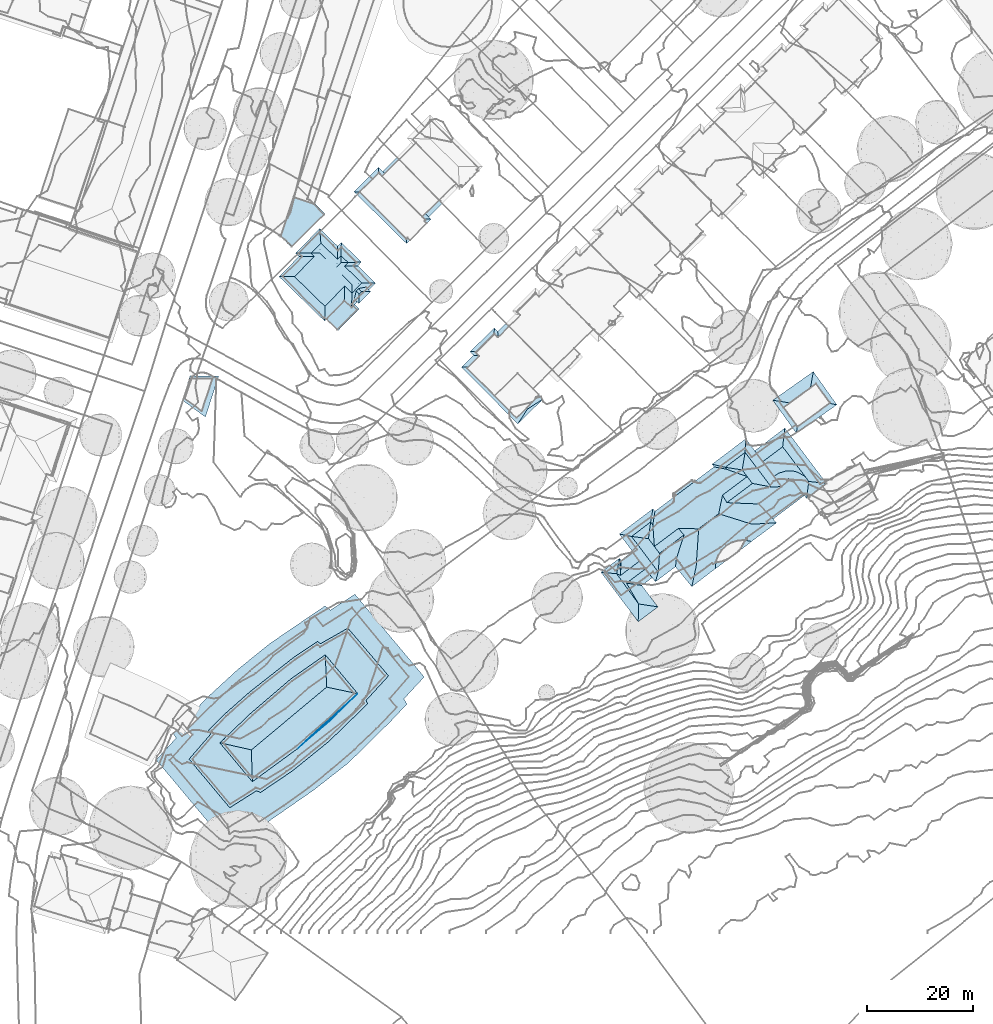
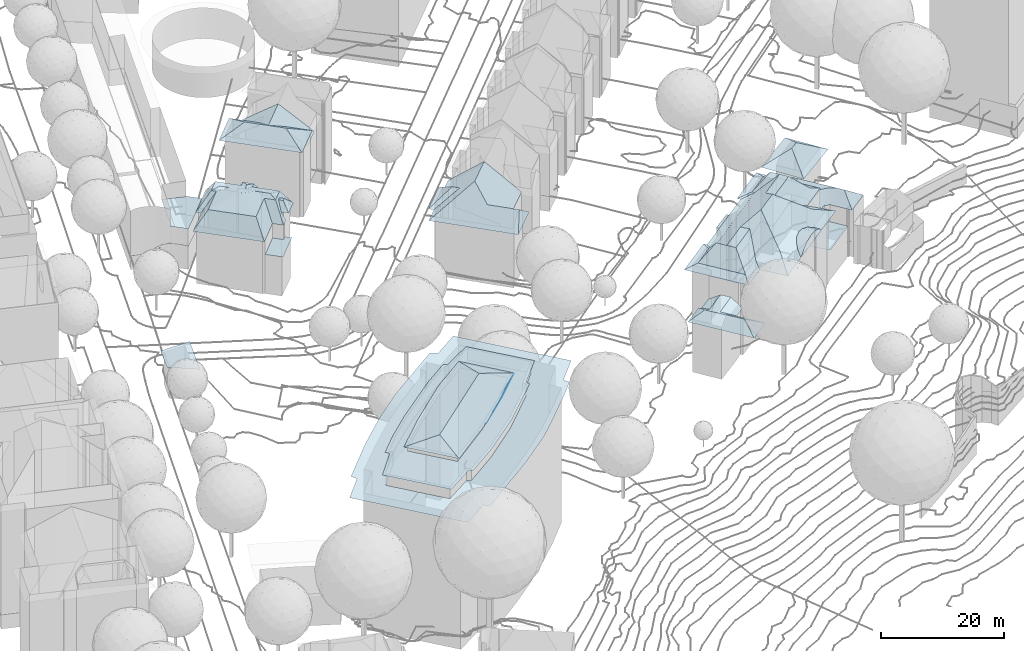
# Not in any storey, part 65 of 477: 16 roofs.
"""IFC4 building model written with IfcOpenShell, lengths in metres."""

from ifc_helpers import new_model, si_unit, frame, origin_with_axes, place, context, subcontext, project, spatial, polygons, element, save


model = new_model("IFC4")

# Units and contexts
model_context = context("Model", 3, precision=1e-05, world=origin_with_axes())
body_context = subcontext(model_context, "Body", "Model", "MODEL_VIEW")
ifc_project = project(units=[si_unit("AREAUNIT", "SQUARE_METRE"), si_unit("LENGTHUNIT", "METRE")], contexts=[model_context])

# Sites, building
site_1_placement = place(None, origin_with_axes())
site_1 = spatial("IfcSite", under=ifc_project, at=site_1_placement, Name="Topoexport Site")
site_2_placement = place(site_1_placement, origin_with_axes())
site_2 = spatial("IfcSite", under=site_1, at=site_2_placement, Name="TPX_BUILDINGS")
building_1_placement = place(site_2_placement, frame((173.5807320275, 98.186316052, 528.0961), z_axis=(0.0, 0.0, 1.0), x_axis=(1.0, 0.0, 0.0)))
building_1 = spatial("IfcBuilding", under=site_2, at=building_1_placement, Name="Building 31", CompositionType="ELEMENT")

# Roof
roof_1_placement = place(None, frame((173.5807320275, 98.186316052, 528.0961), z_axis=(0.0, 0.0, 1.0), x_axis=(1.0, 0.0, 0.0)))
element("IfcRoof", 1, at=roof_1_placement, inside=building_1, Name="Roof 0", context=body_context, shape_type="Tessellation", body=[
    polygons([(-2.0700000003, 1.384800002, 6.1144), (5.5929999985, 6.7950000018, 6.0314), (4.1860000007, 3.057599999, 7.5362), (3.2329999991, 0.5234999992, 8.5571), (1.1739999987, 0.8575000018, 7.6082), (2.5309999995, -3.9404000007, 6.4173), (2.3819999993, -4.8856999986, 5.9644), (4.6719999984, 1.5243999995, 8.5501), (10.0460000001, 0.5243999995, 5.9664), (8.693, 0.7763999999, 6.6173), (5.0500000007, 3.688500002, 7.5162)], [[[3, 2, 1]], [[3, 5, 4]], [[5, 3, 1]], [[5, 1, 6]], [[6, 4, 5]], [[7, 6, 1]], [[8, 4, 6]], [[6, 7, 9]], [[6, 10, 8]], [[10, 6, 9]], [[11, 2, 3]], [[4, 8, 11]], [[4, 11, 3]], [[10, 9, 2]], [[10, 11, 8]], [[11, 10, 2]]]),
])

# Building
building_2_placement = place(site_2_placement, frame((160.7467320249, 68.8533160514, 524.6524), z_axis=(0.0, 0.0, 1.0), x_axis=(1.0, 0.0, 0.0)))
building_2 = spatial("IfcBuilding", under=site_2, at=building_2_placement, Name="Building 63", CompositionType="ELEMENT")

# Roofs
roof_2_placement = place(None, frame((160.7467320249, 68.8533160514, 524.6524), z_axis=(0.0, 0.0, 1.0), x_axis=(1.0, 0.0, 0.0)))
element("IfcRoof", 2, at=roof_2_placement, inside=building_2, Name="Roof 0", context=body_context, shape_type="Tessellation", body=[
    polygons([(-14.0279999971, -4.3574000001, 9.889), (-13.3329999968, -1.2011999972, 11.4629), (-12.5309999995, -2.2675999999, 10.464), (-15.1559999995, -4.1854999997, 10.4999), (-12.0689999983, -2.8817999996, 9.889), (-16.935999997, -3.9140000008, 11.4629), (-14.6339999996, -7.8594000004, 11.6148), (-16.2929999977, -5.0155999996, 11.5049), (-18.7989999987, -2.1317999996, 11.4099), (-16.5599999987, -5.2108999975, 11.5198), (-18.0460000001, -2.4393999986, 11.4629), (-10.9789999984, -8.4043000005, 9.889), (-14.7229999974, -11.2225999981, 9.889), (-21.7779999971, -1.8524999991, 9.889), (-20.1969999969, -3.182599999, 10.271), (-17.2149999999, -5.6893999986, 10.9909), (-20.925999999, -1.932599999, 10.324), (-18.2529999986, 0.8027999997, 9.889), (-17.9759999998, 0.4365000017, 9.889), (-14.443, 0.2725000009, 11.4629), (-15.799999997, 2.0752000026, 9.889)], [[[3, 2, 1]], [[1, 2, 4]], [[5, 3, 1]], [[4, 2, 6]], [[8, 7, 4]], [[4, 6, 8]], [[1, 4, 7]], [[6, 9, 8]], [[8, 10, 7]], [[10, 8, 9]], [[9, 6, 11]], [[13, 12, 7]], [[15, 14, 13]], [[16, 13, 7]], [[13, 16, 15]], [[12, 1, 7]], [[14, 15, 17]], [[17, 15, 10]], [[16, 7, 10]], [[9, 17, 10]], [[10, 15, 16]], [[18, 17, 9]], [[17, 18, 14]], [[9, 11, 18]], [[18, 11, 19]], [[19, 11, 20]], [[20, 21, 19]], [[2, 20, 6]], [[11, 6, 20]]]),
])
roof_3_placement = place(None, frame((160.7467320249, 68.8533160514, 524.6524), z_axis=(0.0, 0.0, 1.0), x_axis=(1.0, 0.0, 0.0)))
element("IfcRoof", 3, at=roof_3_placement, inside=building_2, Name="Roof 1", context=body_context, shape_type="Tessellation", body=[
    polygons([(12.4710000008, 14.3535000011, 6.6703), (10.8289999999, 8.2109999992, 6.6703), (8.1400000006, 11.0918000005, 6.6703), (16.7440000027, 12.6807000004, 6.6703), (14.825000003, 15.2588, 6.6703), (13.8940000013, 15.4824000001, 6.6703), (13.4810000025, 15.2655999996, 6.6703)], [[[3, 2, 1]], [[4, 1, 2]], [[5, 1, 4]], [[7, 5, 6]], [[7, 1, 5]]]),
])
roof_4_placement = place(None, frame((160.7467320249, 68.8533160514, 524.6524), z_axis=(0.0, 0.0, 1.0), x_axis=(1.0, 0.0, 0.0)))
element("IfcRoof", 4, at=roof_4_placement, inside=building_2, Name="Roof 2", context=body_context, shape_type="Tessellation", body=[
    polygons([(5.6660000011, 4.1621000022, 15.3665), (6.7520000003, 3.9824000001, 14.7285), (6.0270000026, 3.4053000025, 15.5055), (5.4290000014, 4.2012000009, 15.5055), (5.1850000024, 2.7705000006, 16.0654), (4.1750000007, 4.1114000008, 16.0654), (4.2740000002, 2.0780999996, 16.4104), (3.0090000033, 3.7588, 16.4104), (3.3210000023, 1.3672000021, 16.5274), (1.9740000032, 3.1563000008, 16.5274), (1.1090000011, 2.3280999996, 16.4104), (2.3710000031, 0.6524000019, 16.4104), (1.4560000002, -0.0361000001, 16.0654), (0.4470000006, 1.3037, 16.0654), (0.0150000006, 0.1240000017, 15.5055), (0.6120000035, -0.6719000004, 15.5055), (-0.1429999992, -1.2089999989, 14.7285), (0.0, 0.0, 15.4335), (5.4420000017, 4.183600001, 15.3055), (5.6700000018, 4.1612000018, 15.1645), (5.6660000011, 4.1621000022, 15.1775)], [[[3, 2, 1]], [[1, 4, 3]], [[5, 3, 4]], [[6, 5, 4]], [[6, 8, 7]], [[7, 5, 6]], [[8, 10, 9]], [[9, 7, 8]], [[12, 9, 11]], [[10, 11, 9]], [[12, 14, 13]], [[14, 12, 11]], [[15, 13, 14]], [[15, 16, 13]], [[17, 16, 15]], [[17, 15, 18]], [[21, 20, 19]]]),
])
roof_5_placement = place(None, frame((160.7467320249, 68.8533160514, 524.6524), z_axis=(0.0, 0.0, 1.0), x_axis=(1.0, 0.0, 0.0)))
element("IfcRoof", 5, at=roof_5_placement, inside=building_2, Name="Roof 3", context=body_context, shape_type="Tessellation", body=[
    polygons([(-10.9210000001, -1.7997999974, 15.4845), (-11.4699999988, -3.6747999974, 14.6825), (-12.5299999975, -2.2675999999, 14.6825), (-16.7889999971, 5.0830000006, 15.2045), (-15.6519999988, 1.8780000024, 14.6826), (-18.2899999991, 5.3828000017, 14.6826), (-15.9839999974, 4.9239000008, 15.4845), (-7.6639999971, -0.8085999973, 14.6825), (-7.4729999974, 0.7959000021, 15.4845), (-4.1559999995, -2.6512999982, 15.7464), (-3.7399999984, -0.7011999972, 16.8193), (-4.568, -4.5830000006, 14.6825), (-10.6779999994, 1.7285000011, 18.6292), (-6.0299999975, 5.2285000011, 18.6292), (-10.9069999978, -1.6024999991, 15.6605), (-7.1379999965, 6.4277999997, 18.6292), (-11.6549999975, 3.0254000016, 18.6292), (9.5900000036, 7.4004000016, 15.5495), (6.7520000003, 3.9824000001, 14.7285), (6.7770000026, 5.3456999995, 15.6014), (6.8120000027, 7.2451000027, 16.8193), (11.4860000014, 7.5069000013, 14.6825), (-3.2759999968, 6.371100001, 20.793), (0.5109999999, 9.2237000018, 20.793), (2.0710000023, 11.3280999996, 18.6292), (1.2420000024, 12.7382999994, 18.6292), (6.2540000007, 11.1328000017, 15.4845), (6.8960000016, 14.9609999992, 18.6292), (10.4560000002, 14.2979000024, 15.4845), (5.9170000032, 16.2588, 18.6292), (5.5240000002, 20.8487000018, 15.4845), (1.7520000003, 18.0088, 15.4845), (5.5620000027, 21.6132999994, 15.2455), (5.6510000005, 23.4101999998, 14.6826), (0.9550000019, 18.1983000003, 15.2275), (-0.737999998, 18.6006000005, 14.6826), (7.762000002, 20.6064999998, 14.6826), (12.4710000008, 14.3535000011, 14.6825), (10.5880000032, 8.4688000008, 14.6825), (8.1400000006, 11.0918000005, 14.6825), (2.0270000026, 17.6358000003, 15.4845), (-11.9579999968, 7.1035000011, 15.4845), (0.9360000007, 17.8476999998, 15.1185), (-11.7219999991, 8.6006000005, 15.0175), (-7.5029999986, 12.7217000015, 14.6826), (-11.5529999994, 9.6739000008, 14.6826), (-7.9919999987, 12.3535000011, 14.6826), (-4.2079999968, 15.2050999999, 14.6826), (-3.9909999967, 15.3682000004, 14.6826), (-0.3609999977, 18.1006000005, 14.6826), (-7.8029999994, 13.1220999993, 14.6826), (-4.4699999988, 15.5557000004, 14.6826), (-12.2149999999, 8.5254000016, 15.2055), (-11.9279999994, 10.1739000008, 14.6826), (-12.367999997, 7.6484999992, 15.4845), (2.1630000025, 0.5274000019, 14.7285), (-0.1429999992, -1.2089999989, 14.7285), (4.3800000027, 2.1933999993, 14.7285), (-12.7779999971, 4.5166000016, 18.6292), (4.9600000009, 17.5313000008, 18.6292), (-3.2459999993, 15.9297000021, 14.6326), (-0.3609999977, 18.1006000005, 14.4826)], [[[3, 2, 1]], [[1, 4, 3]], [[4, 5, 3]], [[6, 5, 4]], [[4, 1, 7]], [[1, 2, 8]], [[8, 9, 1]], [[9, 8, 10]], [[9, 10, 11]], [[10, 8, 12]], [[9, 14, 13]], [[15, 1, 9]], [[13, 15, 9]], [[17, 13, 16]], [[14, 16, 13]], [[20, 19, 18]], [[18, 21, 20]], [[22, 18, 19]], [[23, 11, 21]], [[21, 24, 23]], [[26, 24, 25]], [[25, 21, 27]], [[21, 25, 24]], [[29, 28, 27]], [[25, 27, 28]], [[26, 25, 28]], [[28, 30, 26]], [[33, 32, 31]], [[35, 33, 34]], [[35, 32, 33]], [[36, 35, 34]], [[37, 34, 33]], [[37, 33, 31]], [[37, 29, 38]], [[29, 37, 31]], [[40, 18, 39]], [[21, 40, 27]], [[39, 18, 22]], [[18, 40, 21]], [[27, 40, 29]], [[38, 29, 40]], [[41, 26, 30]], [[24, 26, 23]], [[26, 41, 42]], [[16, 42, 17]], [[16, 23, 26]], [[16, 26, 42]], [[9, 11, 14]], [[14, 23, 16]], [[23, 14, 11]], [[45, 44, 43]], [[44, 47, 46]], [[47, 44, 45]], [[44, 42, 43]], [[43, 48, 45]], [[49, 48, 43]], [[50, 49, 43]], [[43, 42, 41]], [[52, 51, 45]], [[52, 45, 48]], [[46, 53, 44]], [[53, 46, 54]], [[55, 42, 44]], [[55, 44, 53]], [[53, 4, 55]], [[6, 53, 54]], [[55, 4, 7]], [[4, 53, 6]], [[57, 56, 11]], [[10, 12, 57]], [[10, 57, 11]], [[20, 58, 19]], [[58, 20, 21]], [[21, 56, 58]], [[56, 21, 11]], [[43, 41, 35]], [[35, 41, 32]], [[36, 50, 43]], [[36, 43, 35]], [[7, 17, 59]], [[17, 7, 15]], [[13, 17, 15]], [[15, 7, 1]], [[30, 32, 41]], [[32, 30, 60]], [[31, 32, 60]], [[59, 17, 55]], [[42, 55, 17]], [[55, 7, 59]], [[28, 29, 30]], [[30, 31, 60]], [[31, 30, 29]], [[49, 62, 61]]]),
])
roof_6_placement = place(None, frame((160.7467320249, 68.8533160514, 524.6524), z_axis=(0.0, 0.0, 1.0), x_axis=(1.0, 0.0, 0.0)))
element("IfcRoof", 6, at=roof_6_placement, inside=building_2, Name="Roof 4", context=body_context, shape_type="Tessellation", body=[
    polygons([(19.2700000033, 15.4932000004, 10.8329), (20.7070000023, 15.2646999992, 10.016), (20.9470000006, 14.9453000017, 10.016), (14.4370000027, 22.1143000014, 10.7349), (16.8770000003, 16.2763999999, 11.9998), (13.0490000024, 25.4356000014, 10.016), (20.2520000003, 15.0263999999, 10.4229), (17.5610000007, 15.3408000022, 11.9998), (19.5520000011, 15.1084000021, 10.8339), (12.9020000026, 24.2178000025, 10.6989), (12.6210000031, 21.8984999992, 11.9998), (7.7630000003, 20.6074000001, 10.539), (7.3550000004, 21.1484999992, 10.016), (8.9000000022, 19.0967000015, 11.9998), (11.8859999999, 16.9004000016, 11.9998), (10.9910000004, 16.3252000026, 11.9998), (13.25, 17.3203000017, 11.9998), (15.3620000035, 17.1308999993, 11.9998), (14.501000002, 17.3271999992, 11.9998), (14.825000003, 15.2588, 10.016), (17.2780000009, 12.9706999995, 10.5469), (17.6490000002, 12.4600000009, 10.016), (17.1750000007, 12.1035000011, 10.016), (13.4810000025, 15.2655999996, 10.016), (13.8940000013, 15.4824000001, 10.016), (12.4710000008, 14.3535000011, 10.016), (16.5920000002, 12.8867000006, 10.016)], [[[3, 2, 1]], [[4, 1, 2]], [[5, 1, 4]], [[4, 2, 6]], [[7, 3, 1]], [[1, 5, 8]], [[8, 9, 1]], [[1, 9, 7]], [[6, 10, 4]], [[11, 5, 4]], [[11, 4, 10]], [[10, 12, 11]], [[13, 10, 6]], [[13, 12, 10]], [[12, 14, 11]], [[16, 15, 14]], [[17, 11, 14]], [[14, 15, 17]], [[18, 5, 11]], [[17, 19, 11]], [[18, 11, 19]], [[20, 5, 18]], [[23, 22, 21]], [[21, 22, 9]], [[3, 7, 22]], [[8, 21, 9]], [[9, 22, 7]], [[15, 24, 17]], [[17, 24, 25]], [[15, 26, 24]], [[26, 15, 16]], [[23, 21, 27]], [[27, 21, 5]], [[27, 5, 20]], [[5, 21, 8]], [[25, 20, 19]], [[18, 19, 20]], [[17, 25, 19]]]),
])

# Building
building_3_placement = place(site_2_placement, frame((60.2177320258, 99.807416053, 527.0553), z_axis=(0.0, 0.0, 1.0), x_axis=(1.0, 0.0, 0.0)))
building_3 = spatial("IfcBuilding", under=site_2, at=building_3_placement, Name="Building 132", CompositionType="ELEMENT")

# Roof
roof_7_placement = place(None, frame((60.2177320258, 99.807416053, 527.0553), z_axis=(0.0, 0.0, 1.0), x_axis=(1.0, 0.0, 0.0)))
element("IfcRoof", 7, at=roof_7_placement, inside=building_3, Name="Roof 0", context=body_context, shape_type="Tessellation", body=[
    polygons([(3.8890000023, -3.432599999, 6.4343), (-0.4890000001, -0.2246000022, 6.4343), (0.9519999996, 4.3925999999, 6.4343), (6.3980000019, 4.3213, 6.4343)], [[[3, 2, 1]], [[1, 4, 3]]]),
])

# Building
building_4_placement = place(site_2_placement, frame((54.4957320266, 39.4383160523, 525.2974), z_axis=(0.0, 0.0, 1.0), x_axis=(1.0, 0.0, 0.0)))
building_4 = spatial("IfcBuilding", under=site_2, at=building_4_placement, Name="Building 133", CompositionType="ELEMENT")

# Roofs
roof_8_placement = place(None, frame((54.4957320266, 39.4383160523, 525.2974), z_axis=(0.0, 0.0, 1.0), x_axis=(1.0, 0.0, 0.0)))
element("IfcRoof", 8, at=roof_8_placement, inside=building_4, Name="Roof 1", context=body_context, shape_type="Tessellation", body=[
    polygons([(18.0799999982, 0.5302999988, 28.2982), (22.5870000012, 4.121100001, 28.2982), (18.5320000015, 0.5078000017, 28.2982), (23.8339999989, 5.0507999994, 28.2982), (13.6799999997, -4.1279000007, 28.2982), (13.5709999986, -3.9862999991, 28.2982), (25.7509999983, -9.6611000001, 27.6263), (19.7320000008, -10.558600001, 28.1922), (23.9930000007, -7.4433999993, 28.1842), (26.063000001, -10.0546999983, 27.5273), (25.0489999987, -10.1358000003, 27.6333), (39.9930000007, 3.2655999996, 27.5273), (40.3410000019, 2.6865000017, 27.5273), (39.4809999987, 2.5478000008, 27.6353), (34.8909999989, 1.807599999, 28.2132), (34.9970000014, 1.9111000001, 28.1932), (39.7270000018, 3.4305999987, 27.6043), (37.7690000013, 4.6064000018, 28.1612), (37.6640000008, 4.7324000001, 28.2022), (19.8159999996, -13.4941999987, 27.6643), (20.0520000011, -14.1094000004, 27.5273), (19.2419999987, -13.8213, 27.5273), (18.8170000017, -11.2276000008, 28.1552), (18.9180000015, -11.1532999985, 28.1842), (14.2129999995, -17.0078000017, 27.5273), (18.3590000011, -11.1493999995, 28.2362), (18.5729999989, -11.4052999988, 28.1502), (17.7419999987, -10.4111000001, 28.2362), (7.3269999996, -7.9990000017, 27.5783), (6.5179999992, -7.8115000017, 27.5273), (14.245000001, 0.9219000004, 27.6433), (17.9609999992, 4.871100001, 27.5273), (17.9789999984, 4.2206999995, 27.6433), (13.568, 0.9902000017, 27.5273), (13.568, 0.2831999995, 27.6373), (10.6209999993, -3.0625, 27.5273), (11.6710000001, -1.6182000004, 27.5273), (10.1579999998, -2.4268000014, 27.5273), (7.7609999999, -7.1376999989, 27.6633), (13.0229999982, -4.7558999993, 28.2102), (34.0769999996, 1.0166000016, 28.2122), (33.1700000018, -3.5742000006, 27.6353), (33.0, -4.4375, 27.5273), (32.7760000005, -0.2490000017, 28.1942), (29.9050000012, -2.7129000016, 28.2032), (30.6229999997, -2.0967000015, 28.2012), (26.5179999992, -9.0430000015, 27.6303), (26.6779999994, -5.4814999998, 28.1662), (29.0240000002, -3.4677999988, 28.1972), (26.3979999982, 10.8691000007, 27.6343), (25.7490000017, 10.3583999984, 27.6393), (26.2850000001, 11.4160000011, 27.5273), (27.0590000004, 7.6601000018, 28.2632), (26.0760000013, 6.9717000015, 28.2562), (27.1959999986, 11.4266999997, 27.6483), (32.0670000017, 11.4774999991, 28.2982), (29.0769999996, 9.0731999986, 28.2982), (18.631000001, 4.7626999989, 27.6393), (35.6939999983, 15.9023000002, 27.6783), (40.1950000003, 6.1854999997, 27.9812), (36.5760000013, 16.9785000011, 27.5273), (37.0020000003, 15.7089999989, 27.5803), (31.3720000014, 14.0234000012, 27.5273), (31.5080000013, 13.5254000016, 27.6783), (30.4770000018, 13.5654000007, 27.5273), (30.8520000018, 14.4862999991, 27.5273), (32.9670000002, 10.3603000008, 28.2982), (37.4479999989, 4.9912, 28.2852), (44.2699999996, 7.9560000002, 27.5273), (43.1499999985, 7.4697000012, 27.6523), (32.2089999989, 11.2685000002, 28.2982)], [[[3, 2, 1]], [[4, 2, 3]], [[6, 5, 3]], [[6, 3, 1]], [[9, 8, 7]], [[11, 10, 7]], [[11, 7, 8]], [[14, 13, 12]], [[12, 15, 14]], [[15, 12, 16]], [[18, 16, 17]], [[19, 18, 17]], [[12, 17, 16]], [[22, 21, 20]], [[20, 23, 22]], [[23, 20, 24]], [[20, 8, 24]], [[11, 20, 21]], [[11, 8, 20]], [[10, 11, 21]], [[27, 26, 25]], [[23, 27, 25]], [[25, 22, 23]], [[29, 25, 28]], [[25, 29, 30]], [[25, 26, 28]], [[33, 32, 31]], [[33, 31, 1]], [[31, 32, 34]], [[35, 6, 31]], [[31, 34, 35]], [[1, 31, 6]], [[37, 36, 6]], [[35, 34, 37]], [[37, 6, 35]], [[37, 34, 38]], [[38, 36, 37]], [[30, 29, 39]], [[39, 29, 28]], [[28, 40, 39]], [[5, 6, 40]], [[40, 6, 39]], [[30, 39, 36]], [[6, 36, 39]], [[42, 14, 41]], [[13, 42, 43]], [[14, 15, 41]], [[13, 14, 42]], [[41, 44, 42]], [[46, 45, 43]], [[43, 42, 46]], [[46, 42, 44]], [[48, 9, 47]], [[47, 7, 10]], [[7, 47, 9]], [[48, 47, 49]], [[47, 10, 43]], [[49, 47, 43]], [[49, 43, 45]], [[52, 51, 50]], [[54, 53, 50]], [[50, 51, 4]], [[4, 54, 50]], [[51, 2, 4]], [[50, 53, 55]], [[52, 50, 55]], [[57, 56, 55]], [[57, 55, 53]], [[51, 52, 32]], [[51, 58, 2]], [[58, 51, 32]], [[33, 1, 2]], [[58, 32, 33]], [[2, 58, 33]], [[56, 60, 59]], [[62, 61, 59]], [[62, 59, 60]], [[59, 61, 63]], [[64, 56, 59]], [[63, 64, 59]], [[52, 55, 65]], [[65, 55, 56]], [[63, 65, 64]], [[64, 65, 56]], [[63, 66, 65]], [[52, 65, 66]], [[68, 60, 67]], [[56, 67, 60]], [[19, 17, 60]], [[19, 60, 68]], [[70, 69, 62]], [[62, 60, 70]], [[61, 62, 69]], [[17, 12, 70]], [[70, 60, 17]], [[69, 70, 12]], [[56, 57, 71]], [[71, 67, 56]]]),
])
roof_9_placement = place(None, frame((54.4957320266, 39.4383160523, 525.2974), z_axis=(0.0, 0.0, 1.0), x_axis=(1.0, 0.0, 0.0)))
element("IfcRoof", 9, at=roof_9_placement, inside=building_4, Name="Roof 2", context=body_context, shape_type="Tessellation", body=[
    polygons([(7.1739999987, -7.816399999, 25.2785), (0.2800000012, -7.9512000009, 25.2785), (4.0379999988, -3.8398999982, 25.2785), (3.4580000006, -2.8564999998, 25.2785), (10.0799999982, 3.9803999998, 25.2785), (10.8139999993, -2.4776000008, 25.2785), (11.2589999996, -3.0898999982, 25.2785), (18.2829999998, 4.4891999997, 25.2785), (13.9100000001, 0.625, 25.2785), (14.3150000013, -16.3506000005, 25.2785), (15.6719999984, 9.1171999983, 25.2785), (21.800999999, 14.0760999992, 25.2785), (32.2219999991, 21.1787, 25.2785), (30.8099999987, 13.8553999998, 25.2785), (33.2950000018, 20.4169999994, 25.2785), (36.4640000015, 16.3398000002, 25.2785), (37.9010000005, 23.4101000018, 25.2785), (31.307, 13.4111000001, 25.2785), (43.6039999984, 7.9677999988, 25.2785), (26.5789999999, 11.0117000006, 25.2785), (19.9820000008, -13.5537, 25.2785), (19.1799999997, -13.2685999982, 25.2785), (18.1059999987, -20.6689999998, 25.2785), (30.1380000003, -13.6581999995, 25.2785), (25.7659999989, -9.6513999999, 25.2785), (19.0, -21.3867000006, 25.2785), (32.6700000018, -4.0606000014, 25.2785), (13.4100000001, -23.6611999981, 25.2785), (39.7080000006, 2.7685000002, 25.2785), (47.1849999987, 3.5907999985, 25.2785), (39.3729999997, 3.3271000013, 25.2785), (51.0309999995, 7.746100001, 25.2785), (39.5309999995, -5.7949000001, 25.2785), (44.8559999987, -0.4785000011, 25.2785), (47.7650000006, 2.6053999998, 25.2785), (36.3559999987, -8.7901000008, 25.2785)], [[[3, 2, 1]], [[5, 4, 3]], [[3, 6, 5]], [[1, 7, 6]], [[9, 8, 5]], [[6, 9, 5]], [[1, 6, 3]], [[2, 10, 1]], [[5, 8, 11]], [[14, 13, 12]], [[14, 15, 13]], [[11, 8, 12]], [[16, 15, 14]], [[16, 17, 15]], [[16, 14, 18]], [[17, 16, 19]], [[14, 12, 20]], [[8, 20, 12]], [[22, 10, 21]], [[10, 23, 21]], [[24, 21, 23]], [[24, 25, 21]], [[24, 23, 26]], [[25, 24, 27]], [[23, 10, 28]], [[10, 2, 28]], [[30, 19, 29]], [[31, 29, 19]], [[32, 19, 30]], [[19, 32, 17]], [[29, 27, 33]], [[34, 29, 33]], [[30, 34, 35]], [[30, 29, 34]], [[33, 27, 36]], [[27, 24, 36]]]),
])
roof_10_placement = place(None, frame((54.4957320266, 39.4383160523, 525.2974), z_axis=(0.0, 0.0, 1.0), x_axis=(1.0, 0.0, 0.0)))
element("IfcRoof", 10, at=roof_10_placement, inside=building_4, Name="Roof 3", context=body_context, shape_type="Tessellation", body=[
    polygons([(33.1130000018, -0.6171999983, 29.1991), (27.0450000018, -5.8291000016, 29.1991), (38.4499999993, 4.5713, 29.1731)], [[[3, 2, 1]]]),
])
roof_11_placement = place(None, frame((54.4957320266, 39.4383160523, 525.2974), z_axis=(0.0, 0.0, 1.0), x_axis=(1.0, 0.0, 0.0)))
element("IfcRoof", 11, at=roof_11_placement, inside=building_4, Name="Roof 4", context=body_context, shape_type="Tessellation", body=[
    polygons([(33.3900000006, 0.3486000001, 29.1731), (32.5579999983, 5.8213, 30.382), (37.6579999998, 4.7391999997, 29.3361), (38.4499999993, 4.5713, 29.1731), (24.4739999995, -7.0927999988, 29.1731), (18.4660000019, -11.2773999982, 29.3351), (18.313000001, -6.067400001, 30.382), (18.4899999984, -12.0868999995, 29.1731), (12.3399999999, -4.7168000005, 29.1731), (13.1420000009, -4.8975000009, 29.3351), (27.0450000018, -5.8291000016, 29.1991), (32.3330000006, 11.120099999, 29.3351), (32.2980000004, 11.941399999, 29.1731), (18.1950000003, 0.8768999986, 29.2241), (25.7670000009, 7.3652000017, 29.2241)], [[[3, 2, 1]], [[1, 4, 3]], [[2, 5, 1]], [[7, 6, 5]], [[8, 5, 6]], [[7, 5, 2]], [[10, 9, 8]], [[6, 7, 10]], [[8, 6, 10]], [[5, 8, 11]], [[11, 4, 1]], [[11, 1, 5]], [[9, 10, 12]], [[10, 7, 2]], [[12, 13, 9]], [[12, 10, 2]], [[3, 4, 12]], [[12, 2, 3]], [[13, 12, 4]], [[9, 15, 14]], [[15, 9, 13]]]),
])

# Building
building_5_placement = place(site_2_placement, frame((78.7667320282, 123.0301160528, 529.3211), z_axis=(0.0, 0.0, 1.0), x_axis=(1.0, 0.0, 0.0)))
building_5 = spatial("IfcBuilding", under=site_2, at=building_5_placement, Name="Building 135", CompositionType="ELEMENT")

# Roofs
roof_12_placement = place(None, frame((78.7667320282, 123.0301160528, 529.3211), z_axis=(0.0, 0.0, 1.0), x_axis=(1.0, 0.0, 0.0)))
element("IfcRoof", 12, at=roof_12_placement, inside=building_5, Name="Roof 0", context=body_context, shape_type="Tessellation", body=[
    polygons([(15.4229999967, -2.9004000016, 13.0077), (16.0089999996, -2.3194000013, 12.0338), (16.2759999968, -2.5800999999, 12.0338), (16.606999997, -2.9013999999, 12.0338), (14.300999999, -2.3418000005, 13.4586), (15.7159999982, -2.0342000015, 12.0338), (14.873999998, -2.8993999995, 13.4586), (15.1199999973, -3.1992000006, 13.0157), (14.4489999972, -3.3339999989, 13.4586), (14.4089999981, -5.1563000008, 12.0338), (13.8769999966, -2.7763999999, 13.4586), (13.7709999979, -4.5351999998, 12.0338), (14.0789999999, -4.8350000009, 12.0338), (13.5189999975, -4.2890999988, 12.0338), (11.1519999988, 0.3037, 14.2736), (8.5369999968, 0.566399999, 14.6165), (10.1559999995, 1.7001999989, 14.2086), (11.6699999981, 1.9140000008, 13.9546), (11.7139999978, -1.8456999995, 13.9546), (8.1609999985, 3.2197000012, 14.2736), (10.3359999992, 3.2137999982, 13.9546), (14.9409999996, -1.2783000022, 13.9546), (13.0369999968, -1.5351999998, 14.2736), (13.0849999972, -3.1816999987, 13.9546), (7.1959999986, 6.2734000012, 13.9546), (6.9419999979, 4.4061999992, 14.2736), (5.3409999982, 4.3691000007, 13.9546), (5.9569999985, 3.7685000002, 13.9546), (7.9609999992, -5.6933999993, 13.9546), (2.2060000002, -0.0800999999, 13.9546), (11.0, 2.5654000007, 14.2086), (11.0089999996, 3.9013999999, 13.9546), (12.3409999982, 2.6015000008, 13.9546), (17.5409999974, -1.2831999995, 10.6389), (16.7109999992, -1.625, 11.2738), (14.4459999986, 0.8535000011, 11.7918), (14.182, 1.990199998, 10.6389), (15.7960000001, -2.1123000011, 11.8338), (16.0089999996, -2.3194000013, 11.3048), (16.2759999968, -2.5800999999, 10.6389), (13.4759999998, -4.3544999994, 12.0068), (13.1729999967, -5.3828000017, 11.1149), (12.993999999, -5.9492000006, 10.6389), (11.6569999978, -4.6464999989, 10.6389), (13.7709999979, -4.5351999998, 11.4068), (13.5989999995, -4.3672000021, 11.8338), (14.0789999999, -4.8350000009, 10.6389), (13.5999999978, -5.3262000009, 10.6389), (13.3609999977, -5.572300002, 10.6389), (6.5949999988, 7.9648000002, 11.3959), (6.9659999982, 9.0282999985, 10.6389), (7.0219999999, 8.3612999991, 11.4419), (2.4169999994, 4.3632999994, 10.6389), (3.0069999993, 4.3641999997, 11.3079), (3.0389999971, 3.7567999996, 10.6389), (3.6059999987, 3.7588, 11.2829), (8.2419999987, -8.1493999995, 10.6389), (0.0819999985, -0.0830000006, 11.5358), (-0.7050000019, -0.0839999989, 10.6389), (6.8609999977, -6.9365000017, 11.2509), (7.9139999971, -8.4862999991, 10.6389), (7.930999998, -7.8350000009, 11.4118), (13.3699999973, 1.9628999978, 11.7108), (13.9399999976, 2.6543000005, 11.8498), (14.8599999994, 2.6854999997, 10.6389), (11.0599999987, 6.3935000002, 10.6389), (9.5, 5.8563999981, 11.5558), (10.3809999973, 5.6963, 10.6389), (10.6209999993, 5.0106999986, 11.9048)], [[[3, 2, 1]], [[4, 3, 1]], [[6, 5, 1]], [[7, 1, 5]], [[6, 1, 2]], [[7, 9, 8]], [[8, 4, 1]], [[8, 1, 7]], [[9, 10, 8]], [[8, 10, 4]], [[12, 9, 11]], [[12, 13, 9]], [[10, 9, 13]], [[11, 14, 12]], [[9, 7, 5]], [[5, 11, 9]], [[17, 16, 15]], [[15, 18, 17]], [[16, 19, 15]], [[21, 20, 17]], [[16, 17, 20]], [[23, 22, 18]], [[18, 15, 23]], [[24, 22, 23]], [[24, 23, 19]], [[15, 19, 23]], [[20, 21, 25]], [[25, 26, 20]], [[25, 27, 26]], [[27, 28, 26]], [[20, 26, 28]], [[16, 29, 19]], [[30, 29, 16]], [[28, 16, 20]], [[30, 16, 28]], [[33, 32, 31]], [[32, 21, 17]], [[17, 31, 32]], [[31, 17, 18]], [[18, 33, 31]], [[5, 22, 24]], [[24, 11, 5]], [[6, 22, 5]], [[35, 34, 22]], [[22, 6, 35]], [[22, 34, 36]], [[37, 36, 34]], [[6, 38, 35]], [[40, 35, 39]], [[35, 40, 34]], [[39, 35, 38]], [[24, 14, 11]], [[14, 24, 41]], [[24, 42, 41]], [[42, 24, 43]], [[24, 19, 44]], [[44, 43, 24]], [[46, 41, 45]], [[41, 46, 14]], [[48, 47, 45]], [[48, 45, 41]], [[42, 43, 49]], [[42, 49, 48]], [[42, 48, 41]], [[52, 51, 50]], [[50, 27, 25]], [[50, 25, 52]], [[50, 51, 53]], [[50, 54, 27]], [[54, 50, 53]], [[53, 55, 54]], [[54, 55, 56]], [[56, 28, 27]], [[56, 27, 54]], [[44, 29, 57]], [[19, 29, 44]], [[55, 59, 58]], [[55, 58, 30]], [[56, 55, 30]], [[28, 56, 30]], [[58, 59, 60]], [[58, 60, 30]], [[60, 59, 61]], [[57, 29, 62]], [[62, 61, 57]], [[30, 62, 29]], [[61, 62, 60]], [[30, 60, 62]], [[64, 33, 63]], [[63, 65, 64]], [[64, 66, 33]], [[66, 64, 65]], [[33, 66, 32]], [[67, 25, 21]], [[21, 68, 67]], [[67, 68, 51]], [[52, 25, 67]], [[51, 52, 67]], [[69, 21, 32]], [[21, 69, 68]], [[69, 32, 66]], [[66, 68, 69]], [[18, 22, 63]], [[37, 63, 36]], [[22, 36, 63]], [[65, 63, 37]], [[18, 63, 33]]]),
])
roof_13_placement = place(None, frame((78.7667320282, 123.0301160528, 529.3211), z_axis=(0.0, 0.0, 1.0), x_axis=(1.0, 0.0, 0.0)))
element("IfcRoof", 13, at=roof_13_placement, inside=building_5, Name="Roof 1", context=body_context, shape_type="Tessellation", body=[
    polygons([(10.4499999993, -10.259800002, 7.7942), (8.2649999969, -8.126000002, 7.7942), (12.993999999, -5.9492000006, 7.7942), (11.6569999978, -4.6464999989, 7.7942), (14.4509999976, -6.1563000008, 7.7942), (13.5999999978, -5.3262000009, 7.7942)], [[[3, 2, 1]], [[3, 4, 2]], [[5, 3, 1]], [[6, 3, 5]]]),
])

# Building
building_6_placement = place(site_2_placement, frame((93.366732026, 139.0154160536, 529.92), z_axis=(0.0, 0.0, 1.0), x_axis=(1.0, 0.0, 0.0)))
building_6 = spatial("IfcBuilding", under=site_2, at=building_6_placement, Name="Building 141", CompositionType="ELEMENT")

# Roof
roof_14_placement = place(None, frame((93.366732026, 139.0154160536, 529.92), z_axis=(0.0, 0.0, 1.0), x_axis=(1.0, 0.0, 0.0)))
element("IfcRoof", 14, at=roof_14_placement, inside=building_6, Name="Roof 0", context=body_context, shape_type="Tessellation", body=[
    polygons([(3.6220000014, -0.1894000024, 15.5615), (8.6000000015, -5.0898000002, 15.5615), (0.0580000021, -0.0576000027, 13.9677), (-1.118999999, -0.0146000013, 13.4417), (8.800999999, -8.8905999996, 13.8606), (8.8509999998, -9.8271000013, 13.4417), (9.506000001, -9.1621000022, 13.4417), (12.6420000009, -5.9756000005, 13.4417), (12.2250000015, -5.1416000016, 13.9756), (13.4450000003, -5.1601000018, 13.4417), (10.3020000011, -2.0664000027, 13.4417), (6.8920000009, -2.2919999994, 15.0575), (3.5109999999, 3.4775999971, 13.9557), (3.4750000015, 4.6513999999, 13.4417), (7.0639999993, 1.1191999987, 13.4417), (6.8640000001, 1.316399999, 13.2417), (3.8489999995, 3.3486999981, 10.698), (7.0140000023, 6.5645000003, 10.698), (3.8320000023, 3.3310999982, 10.698), (11.307, 2.1943999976, 15.0575), (6.813000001, 0.3213, 13.7137), (12.4580000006, -5.3779000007, 10.6979), (15.0190000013, -1.5849000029, 11.2879), (15.6000000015, -2.1766999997, 10.6979), (9.443, -2.3340000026, 13.7437), (10.5020000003, -2.263600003, 13.2417), (4.6280000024, 4.1396999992, 10.548), (3.8320000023, 3.3310999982, 10.498), (3.8489999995, 3.3486999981, 10.498)], [[[3, 2, 1]], [[5, 3, 4]], [[5, 2, 3]], [[6, 5, 4]], [[6, 7, 5]], [[5, 7, 8]], [[8, 10, 9]], [[2, 5, 9]], [[9, 5, 8]], [[10, 11, 9]], [[12, 2, 9]], [[9, 11, 12]], [[15, 14, 13]], [[15, 1, 12]], [[1, 15, 13]], [[12, 1, 2]], [[13, 14, 4]], [[3, 1, 13]], [[4, 3, 13]], [[18, 17, 16]], [[17, 19, 16]], [[12, 20, 15]], [[16, 15, 20]], [[16, 20, 18]], [[21, 16, 19]], [[24, 23, 22]], [[22, 26, 25]], [[20, 26, 22]], [[22, 23, 20]], [[20, 12, 11]], [[20, 11, 26]], [[29, 28, 27]]]),
])

# Building
building_7_placement = place(site_2_placement, frame((72.548732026, 133.6649160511, 527.8002), z_axis=(0.0, 0.0, 1.0), x_axis=(1.0, 0.0, 0.0)))
building_7 = spatial("IfcBuilding", under=site_2, at=building_7_placement, Name="Building 143", CompositionType="ELEMENT")

# Roof
roof_15_placement = place(None, frame((72.548732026, 133.6649160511, 527.8002), z_axis=(0.0, 0.0, 1.0), x_axis=(1.0, 0.0, 0.0)))
element("IfcRoof", 15, at=roof_15_placement, inside=building_7, Name="Roof 0", context=body_context, shape_type="Tessellation", body=[
    polygons([(12.1779999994, 2.9872000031, 8.4512), (5.8310000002, -3.1142999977, 8.4512), (5.8420000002, -3.0156999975, 8.4512), (8.2789999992, 4.2890000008, 8.4512), (5.6130000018, -2.8974999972, 8.4512), (7.8969999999, -5.1757999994, 8.4512), (12.2280000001, 3.1357000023, 8.4512), (14.2120000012, 1.1590999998, 8.4512)], [[[3, 2, 1]], [[3, 1, 4]], [[3, 5, 2]], [[2, 6, 1]], [[1, 8, 7]], [[6, 8, 1]]]),
])

# Building
building_8_placement = place(site_2_placement, frame((113.678732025, 105.6463160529, 529.229), z_axis=(0.0, 0.0, 1.0), x_axis=(1.0, 0.0, 0.0)))
building_8 = spatial("IfcBuilding", under=site_2, at=building_8_placement, Name="Building 160", CompositionType="ELEMENT")

# Roof
roof_16_placement = place(None, frame((113.678732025, 105.6463160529, 529.229), z_axis=(0.0, 0.0, 1.0), x_axis=(1.0, 0.0, 0.0)))
element("IfcRoof", 16, at=roof_16_placement, inside=building_8, Name="Roof 0", context=body_context, shape_type="Tessellation", body=[
    polygons([(0.5340000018, 3.0947000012, 11.1639), (5.1060000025, 7.6074000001, 11.1639), (5.0930000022, 6.4853000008, 11.8709), (5.0530000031, 3.1933999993, 13.9447), (1.7100000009, 3.120099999, 11.8879), (1.1850000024, 2.4354999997, 11.1639), (5.9510000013, 2.2831999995, 13.9447), (5.756000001, 6.9481999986, 11.1639), (7.5230000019, 0.0975999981, 16.0844), (12.4560000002, -3.9199000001, 11.1639), (7.5830000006, -3.9492000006, 13.8107), (11.6530000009, 4.1748000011, 16.0844), (16.1090000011, -0.313500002, 11.1639), (1.6720000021, 2.9160000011, 11.1639), (2.0050000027, 2.5800999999, 11.5439), (1.3530000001, 2.6015999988, 11.1639), (2.2440000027, 2.2304999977, 11.6799), (1.8110000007, 1.8016999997, 11.1639), (1.3600000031, 2.2588, 11.1639), (5.9310000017, 6.7725000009, 11.1639), (6.370000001, 6.3271000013, 11.1639), (5.9660000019, 5.9266999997, 11.6679), (5.5960000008, 6.7899999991, 11.1639), (5.6280000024, 6.0194999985, 11.6239), (5.2250000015, 6.4248000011, 11.1639), (0.1780000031, 0.177699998, 11.8879), (-1.0879999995, 0.191399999, 11.1639), (7.3440000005, 8.5165999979, 11.1639), (7.819000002, -7.876000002, 11.5079), (8.1300000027, -8.1904000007, 11.1639), (7.8289999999, -8.4882999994, 11.1639), (11.200000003, -7.6123000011, 13.8107), (13.5700000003, -5.0478999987, 11.1639), (11.3640000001, -7.7793000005, 13.8107), (14.3540000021, -5.8418000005, 11.1639), (4.756000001, -5.7265999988, 11.1639), (9.5510000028, -10.5839999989, 11.1639), (7.6530000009, -8.6611000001, 11.1639), (4.9310000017, -5.5537, 11.1639), (5.2250000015, -5.2637000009, 11.1639), (5.2900000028, -5.3271999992, 11.5009)], [[[3, 2, 1]], [[5, 4, 3]], [[1, 5, 3]], [[5, 1, 6]], [[7, 4, 5]], [[7, 5, 6]], [[4, 7, 8]], [[8, 2, 3]], [[8, 3, 4]], [[11, 10, 9]], [[9, 10, 12]], [[13, 12, 10]], [[16, 15, 14]], [[19, 18, 17]], [[22, 21, 20]], [[25, 24, 23]], [[27, 26, 6]], [[6, 26, 7]], [[7, 9, 12]], [[9, 7, 26]], [[28, 8, 12]], [[8, 7, 12]], [[31, 30, 29]], [[34, 33, 32]], [[33, 34, 35]], [[10, 11, 32]], [[10, 32, 33]], [[27, 36, 26]], [[11, 9, 26]], [[26, 36, 11]], [[38, 37, 32]], [[38, 32, 11]], [[32, 37, 34]], [[38, 11, 36]], [[41, 40, 39]], [[37, 35, 34]]]),
])

save(model, "model.ifc")
